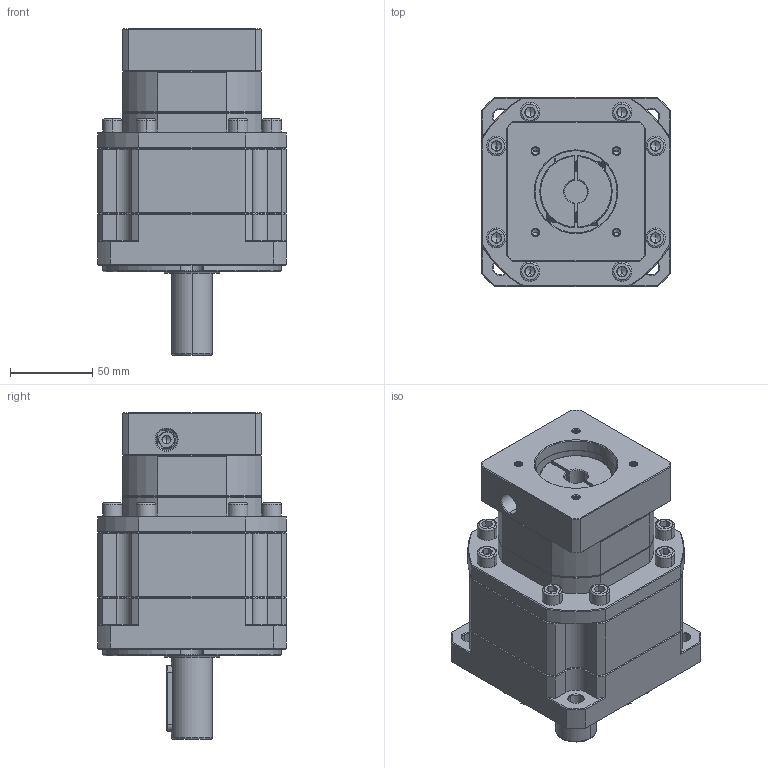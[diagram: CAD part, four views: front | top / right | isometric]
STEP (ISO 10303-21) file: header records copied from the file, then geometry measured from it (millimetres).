
FILE_DESCRIPTION (( 'STEP AP214' ), '1' );
FILE_NAME ('ZB115A-D25-L2-14-50-70-M5.step', '2023-03-03T09:51:38', ( '' ), ( 'Microsoft' ), 'SwSTEP 2.0', 'SolidWorks 2016', '' );
FILE_SCHEMA (( 'AUTOMOTIVE_DESIGN' ));
Length unit declared in the file: millimetre
Products named in the file (1): ZB115A-D25-L2-14-50-70-M5
Bounding box: 115 x 115 x 199 mm (x, y, z)
Volume: 1379125.2 mm3; surface area: 132650.2 mm2
Topology: 5 solids, 6 shells, 2139 faces, 5542 edges, 3500 vertices
Faces by surface type: plane 1006, cylinder 425, cone 364, bspline 344
Entity records: 112904 total; most frequent: CARTESIAN_POINT 40125, ORIENTED_EDGE 11008, DIRECTION 8999, EDGE_CURVE 5504, VERTEX_POINT 3500, VECTOR 3431, LINE 3431, AXIS2_PLACEMENT_3D 2784
